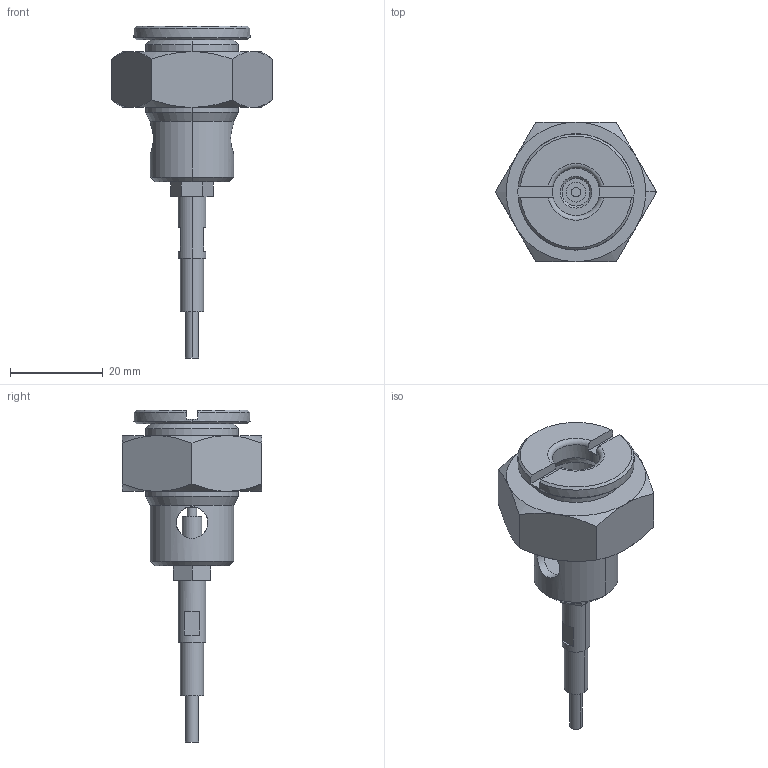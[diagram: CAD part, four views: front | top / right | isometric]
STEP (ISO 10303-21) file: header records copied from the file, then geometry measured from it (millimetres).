
FILE_DESCRIPTION (( 'STEP AP203' ), '1' );
FILE_NAME ('qcwe1034-m20-s.STEP', '2021-10-21T08:28:09', ( '' ), ( '' ), 'SwSTEP 2.0', 'SolidWorks 2020', '' );
FILE_SCHEMA (( 'CONFIG_CONTROL_DESIGN' ));
Length unit declared in the file: millimetre
Products named in the file (4): qcwe1034-m20-s_02; qcwe1034-m20-s_01; qcwe1034-m20-s_03; qcwe1034-m20-s
Assembly tree (3 placements, depth 2):
  qcwe1034-m20-s
    qcwe1034-m20-s_01
    qcwe1034-m20-s_02
    qcwe1034-m20-s_03
Bounding box: 34.64 x 30 x 71.4 mm (x, y, z)
Volume: 12514.7 mm3; surface area: 8499.9 mm2
Topology: 3 solids, 4 shells, 118 faces, 268 edges, 167 vertices
Faces by surface type: plane 41, cylinder 36, cone 35, torus 6
Entity records: 4115 total; most frequent: CARTESIAN_POINT 1007, DIRECTION 599, ORIENTED_EDGE 536, EDGE_CURVE 268, AXIS2_PLACEMENT_3D 247, VERTEX_POINT 167, EDGE_LOOP 137, CIRCLE 123
